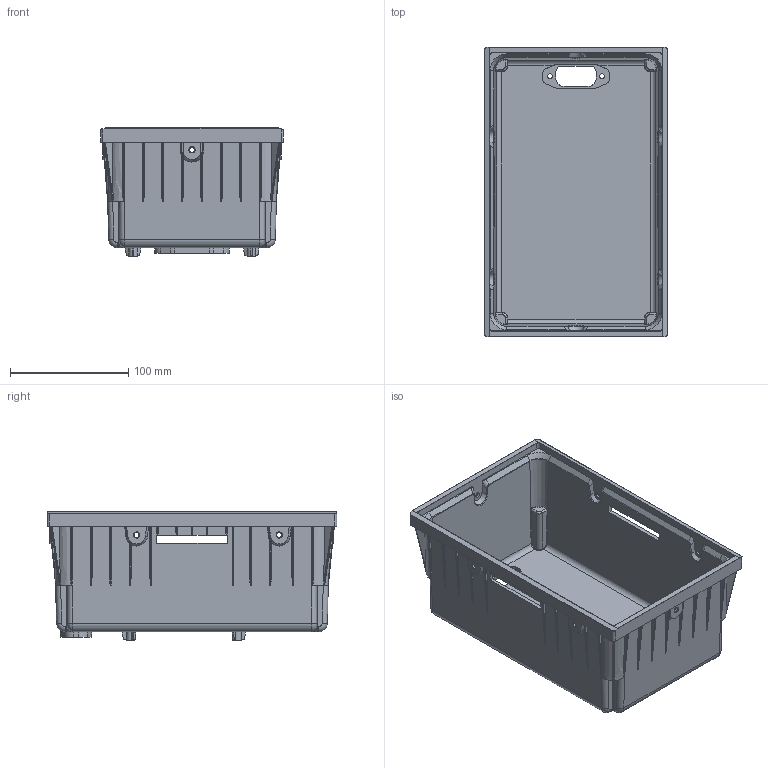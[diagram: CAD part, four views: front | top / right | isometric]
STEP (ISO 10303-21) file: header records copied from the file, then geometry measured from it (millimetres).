
FILE_DESCRIPTION(/* description */ ('STEP AP242 Edition 2','CAx-IF Rec.Pracs.---Representation and Presentation of Product Manufacturing Information (PMI)---4.0---2014-10-13','CAx-IF Rec.Pracs.---3D Tessellated Geometry---0.4---2014-09-14','2;1','CAx-IF Rec.Pracs.---User Defined Attributes---1.5---2016-08-15'),/* implementation_level */ '2;1');
FILE_NAME(/* name */ 'Assy_ForMFG - KD-B-303X_BATT_CAVITY',/* time_stamp */ '2026-05-15T19:56:27Z',/* author */ (''),/* organization */ (''),/* preprocessor_version */ 'ST-DEVELOPER v20',/* originating_system */ 'ONSHAPE BY PTC INC, 1.215',/* authorisation */ ' ');
FILE_SCHEMA (('AP242_MANAGED_MODEL_BASED_3D_ENGINEERING_MIM_LF { 1 0 10303 442 3 1 4 }'));
Length unit declared in the file: metre
Products named in the file (1): KD-B-303X_BATT_CAVITY
Bounding box: 154.7 x 244.79 x 108.45 mm (x, y, z)
Volume: 333765 mm3; surface area: 224829.7 mm2
Topology: 1 solids, 1 shells, 866 faces, 2376 edges, 1521 vertices
Faces by surface type: plane 483, cylinder 259, torus 44, bspline 40, cone 40
Full cylindrical faces by diameter (mm): 3.5 x4, 4.2 x2, 4.3 x6, 7 x4
Entity records: 29761 total; most frequent: CARTESIAN_POINT 7832, ORIENTED_EDGE 4678, DIRECTION 4509, EDGE_CURVE 2339, AXIS2_PLACEMENT_3D 1507, VERTEX_POINT 1506, LINE 1495, VECTOR 1495
